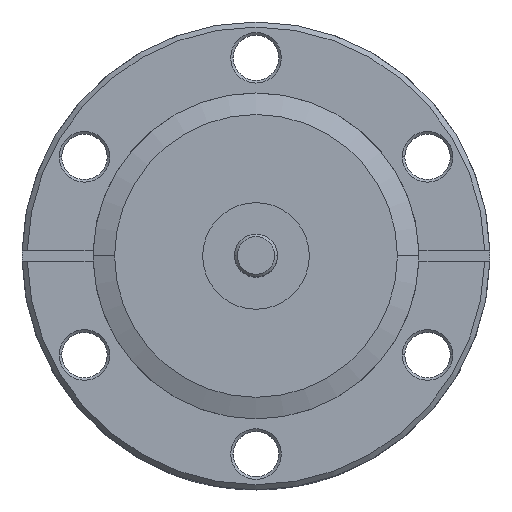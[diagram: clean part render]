
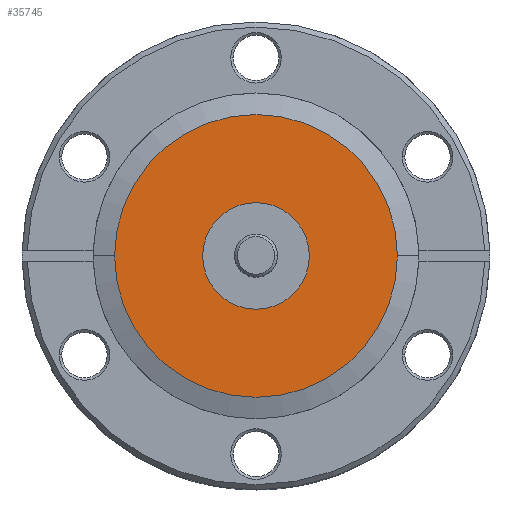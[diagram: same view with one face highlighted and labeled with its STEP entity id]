
A CAD part, top view. The second image highlights one B-rep face of the part: STEP entity #35745.
In plain terms, the highlighted planar face has unit normal (0, 0, 1).
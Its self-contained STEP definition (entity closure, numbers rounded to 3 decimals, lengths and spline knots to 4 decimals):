
#211 = CIRCLE ( 'NONE', #29706, 2.0955 ) ;
#410 = CIRCLE ( 'NONE', #29884, 0.7899 ) ;
#1976 = CARTESIAN_POINT ( 'NONE',  ( 0., 0., -0.1295 ) ) ;
#1977 = DIRECTION ( 'NONE',  ( 0., 0., 1. ) ) ;
#1978 = DIRECTION ( 'NONE',  ( -1., 0., 0. ) ) ;
#3502 = CARTESIAN_POINT ( 'NONE',  ( -2.0955, 0., -0.1295 ) ) ;
#3504 = CARTESIAN_POINT ( 'NONE',  ( 2.0955, 0., -0.1295 ) ) ;
#3511 = CARTESIAN_POINT ( 'NONE',  ( 0.7899, 0., -0.1295 ) ) ;
#3513 = CARTESIAN_POINT ( 'NONE',  ( -0.7899, 0., -0.1295 ) ) ;
#16530 = EDGE_CURVE ( 'NONE', #33757, #33756, #59084, .T. ) ;
#16534 = EDGE_CURVE ( 'NONE', #33752, #33751, #59074, .T. ) ;
#21777 = DIRECTION ( 'NONE',  ( 1., 0., 0. ) ) ;
#21778 = DIRECTION ( 'NONE',  ( 0., 0., -1. ) ) ;
#21779 = CARTESIAN_POINT ( 'NONE',  ( 0., 0., -0.1295 ) ) ;
#23935 = EDGE_CURVE ( 'NONE', #33756, #33757, #410, .T. ) ;
#24212 = EDGE_CURVE ( 'NONE', #33751, #33752, #211, .T. ) ;
#28936 = AXIS2_PLACEMENT_3D ( 'NONE', #38380, #38398, #38400 ) ;
#29706 = AXIS2_PLACEMENT_3D ( 'NONE', #1976, #1977, #1978 ) ;
#29884 = AXIS2_PLACEMENT_3D ( 'NONE', #21779, #21778, #21777 ) ;
#30259 = AXIS2_PLACEMENT_3D ( 'NONE', #54927, #54925, #54924 ) ;
#30261 = AXIS2_PLACEMENT_3D ( 'NONE', #54948, #54946, #54945 ) ;
#33751 = VERTEX_POINT ( 'NONE', #3502 ) ;
#33752 = VERTEX_POINT ( 'NONE', #3504 ) ;
#33756 = VERTEX_POINT ( 'NONE', #3511 ) ;
#33757 = VERTEX_POINT ( 'NONE', #3513 ) ;
#35745 = ADVANCED_FACE ( 'NONE', ( #53735, #53726 ), #38388, .T. ) ;
#38380 = CARTESIAN_POINT ( 'NONE',  ( 2.0955, 0., -0.1295 ) ) ;
#38388 = PLANE ( 'NONE',  #28936 ) ;
#38398 = DIRECTION ( 'NONE',  ( 0., 0., 1. ) ) ;
#38400 = DIRECTION ( 'NONE',  ( 1., 0., 0. ) ) ;
#39532 = EDGE_LOOP ( 'NONE', ( #39926, #39929 ) ) ;
#39778 = EDGE_LOOP ( 'NONE', ( #39921, #39922 ) ) ;
#39921 = ORIENTED_EDGE ( 'NONE', *, *, #24212, .T. ) ;
#39922 = ORIENTED_EDGE ( 'NONE', *, *, #16534, .T. ) ;
#39926 = ORIENTED_EDGE ( 'NONE', *, *, #23935, .T. ) ;
#39929 = ORIENTED_EDGE ( 'NONE', *, *, #16530, .T. ) ;
#53726 = FACE_BOUND ( 'NONE', #39532, .T. ) ;
#53735 = FACE_OUTER_BOUND ( 'NONE', #39778, .T. ) ;
#54924 = DIRECTION ( 'NONE',  ( -1., 0., 0. ) ) ;
#54925 = DIRECTION ( 'NONE',  ( 0., 0., 1. ) ) ;
#54927 = CARTESIAN_POINT ( 'NONE',  ( 0., 0., -0.1295 ) ) ;
#54945 = DIRECTION ( 'NONE',  ( 1., 0., 0. ) ) ;
#54946 = DIRECTION ( 'NONE',  ( 0., 0., -1. ) ) ;
#54948 = CARTESIAN_POINT ( 'NONE',  ( 0., 0., -0.1295 ) ) ;
#59074 = CIRCLE ( 'NONE', #30259, 2.0955 ) ;
#59084 = CIRCLE ( 'NONE', #30261, 0.7899 ) ;
